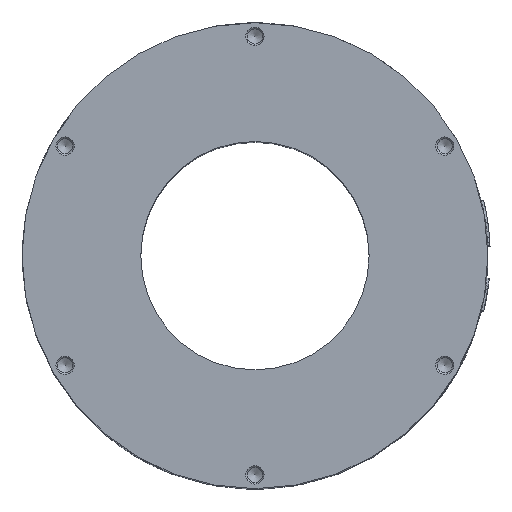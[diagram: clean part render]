
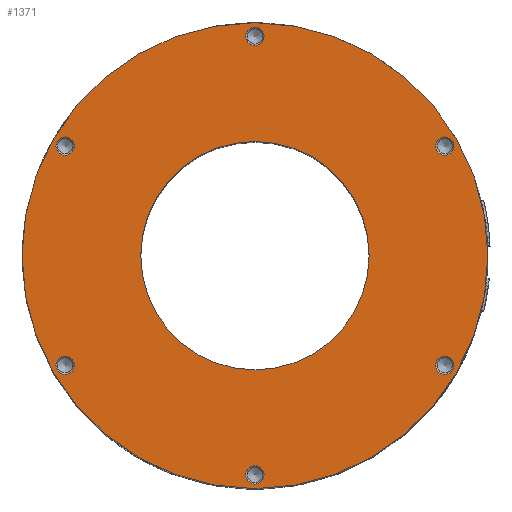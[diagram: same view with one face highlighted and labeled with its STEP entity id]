
A CAD part, top view. The second image highlights one B-rep face of the part: STEP entity #1371.
In plain terms, the highlighted planar face has unit normal (0, 0, 1).
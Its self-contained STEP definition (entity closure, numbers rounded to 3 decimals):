
#227=FACE_BOUND('',#2541,.T.);
#228=FACE_BOUND('',#2542,.T.);
#229=FACE_BOUND('',#2543,.T.);
#230=FACE_BOUND('',#2544,.T.);
#231=FACE_BOUND('',#2545,.T.);
#232=FACE_BOUND('',#2546,.T.);
#233=FACE_BOUND('',#2547,.T.);
#234=FACE_BOUND('',#2548,.T.);
#524=CIRCLE('',#7586,51.);
#547=CIRCLE('',#7611,2.);
#548=CIRCLE('',#7612,2.);
#549=CIRCLE('',#7613,2.);
#550=CIRCLE('',#7614,2.);
#551=CIRCLE('',#7615,2.);
#552=CIRCLE('',#7616,2.);
#553=CIRCLE('',#7617,25.);
#905=PLANE('',#7618);
#1371=ADVANCED_FACE('',(#227,#228,#229,#230,#231,#232,#233,#234),#905,.F.);
#2541=EDGE_LOOP('',(#4157));
#2542=EDGE_LOOP('',(#4158));
#2543=EDGE_LOOP('',(#4159));
#2544=EDGE_LOOP('',(#4160));
#2545=EDGE_LOOP('',(#4161));
#2546=EDGE_LOOP('',(#4162));
#2547=EDGE_LOOP('',(#4163));
#2548=EDGE_LOOP('',(#4164));
#4157=ORIENTED_EDGE('',*,*,#6382,.T.);
#4158=ORIENTED_EDGE('',*,*,#6383,.T.);
#4159=ORIENTED_EDGE('',*,*,#6384,.T.);
#4160=ORIENTED_EDGE('',*,*,#6385,.T.);
#4161=ORIENTED_EDGE('',*,*,#6386,.T.);
#4162=ORIENTED_EDGE('',*,*,#6387,.T.);
#4163=ORIENTED_EDGE('',*,*,#6388,.F.);
#4164=ORIENTED_EDGE('',*,*,#6343,.F.);
#5375=VERTEX_POINT('',#28634);
#5414=VERTEX_POINT('',#28714);
#5415=VERTEX_POINT('',#28716);
#5416=VERTEX_POINT('',#28718);
#5417=VERTEX_POINT('',#28720);
#5418=VERTEX_POINT('',#28722);
#5419=VERTEX_POINT('',#28724);
#5420=VERTEX_POINT('',#28726);
#6343=EDGE_CURVE('',#5375,#5375,#524,.T.);
#6382=EDGE_CURVE('',#5414,#5414,#547,.T.);
#6383=EDGE_CURVE('',#5415,#5415,#548,.T.);
#6384=EDGE_CURVE('',#5416,#5416,#549,.T.);
#6385=EDGE_CURVE('',#5417,#5417,#550,.T.);
#6386=EDGE_CURVE('',#5418,#5418,#551,.T.);
#6387=EDGE_CURVE('',#5419,#5419,#552,.T.);
#6388=EDGE_CURVE('',#5420,#5420,#553,.T.);
#7586=AXIS2_PLACEMENT_3D('',#28633,#8637,#8638);
#7611=AXIS2_PLACEMENT_3D('',#28713,#8703,#8704);
#7612=AXIS2_PLACEMENT_3D('',#28715,#8705,#8706);
#7613=AXIS2_PLACEMENT_3D('',#28717,#8707,#8708);
#7614=AXIS2_PLACEMENT_3D('',#28719,#8709,#8710);
#7615=AXIS2_PLACEMENT_3D('',#28721,#8711,#8712);
#7616=AXIS2_PLACEMENT_3D('',#28723,#8713,#8714);
#7617=AXIS2_PLACEMENT_3D('',#28725,#8715,#8716);
#7618=AXIS2_PLACEMENT_3D('',#28727,#8717,#8718);
#8637=DIRECTION('',(0.,0.,-1.));
#8638=DIRECTION('',(-1.,0.,0.));
#8703=DIRECTION('',(0.,0.,-1.));
#8704=DIRECTION('',(-1.,0.,0.));
#8705=DIRECTION('',(0.,0.,-1.));
#8706=DIRECTION('',(-1.,0.,0.));
#8707=DIRECTION('',(0.,0.,-1.));
#8708=DIRECTION('',(-1.,0.,0.));
#8709=DIRECTION('',(0.,0.,-1.));
#8710=DIRECTION('',(-1.,0.,0.));
#8711=DIRECTION('',(0.,0.,-1.));
#8712=DIRECTION('',(-1.,0.,0.));
#8713=DIRECTION('',(0.,0.,-1.));
#8714=DIRECTION('',(-1.,0.,0.));
#8715=DIRECTION('',(0.,0.,1.));
#8716=DIRECTION('',(-1.,0.,0.));
#8717=DIRECTION('',(0.,0.,-1.));
#8718=DIRECTION('',(1.,0.,0.));
#28633=CARTESIAN_POINT('',(0.,0.,104.));
#28634=CARTESIAN_POINT('',(-51.,0.,104.));
#28713=CARTESIAN_POINT('',(41.569,24.,104.));
#28714=CARTESIAN_POINT('',(39.569,24.,104.));
#28715=CARTESIAN_POINT('',(41.569,-24.,104.));
#28716=CARTESIAN_POINT('',(39.569,-24.,104.));
#28717=CARTESIAN_POINT('',(0.,-48.,104.));
#28718=CARTESIAN_POINT('',(-2.,-48.,104.));
#28719=CARTESIAN_POINT('',(-41.569,-24.,104.));
#28720=CARTESIAN_POINT('',(-43.569,-24.,104.));
#28721=CARTESIAN_POINT('',(-41.569,24.,104.));
#28722=CARTESIAN_POINT('',(-43.569,24.,104.));
#28723=CARTESIAN_POINT('',(0.,48.,104.));
#28724=CARTESIAN_POINT('',(-2.,48.,104.));
#28725=CARTESIAN_POINT('',(0.,0.,104.));
#28726=CARTESIAN_POINT('',(-25.,0.,104.));
#28727=CARTESIAN_POINT('',(0.,0.,104.));
